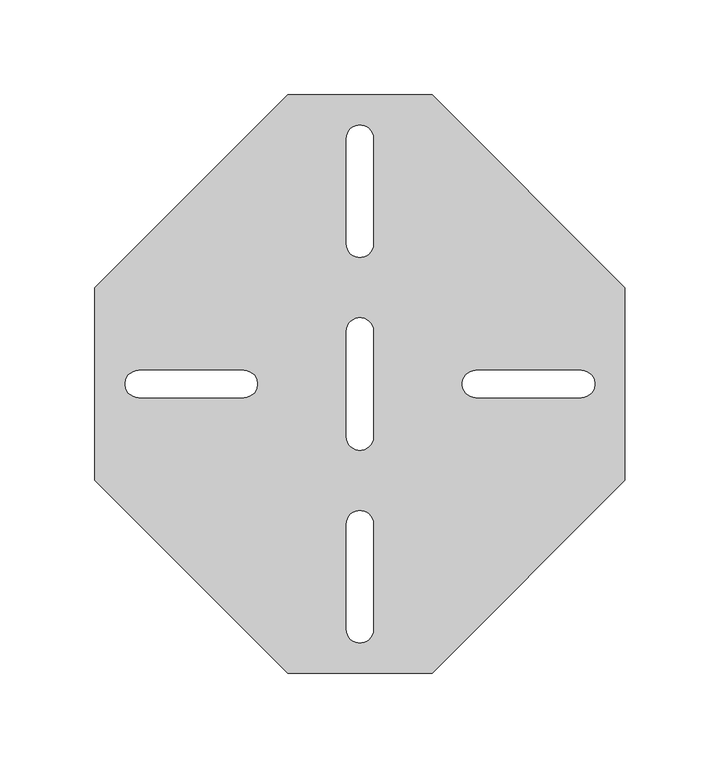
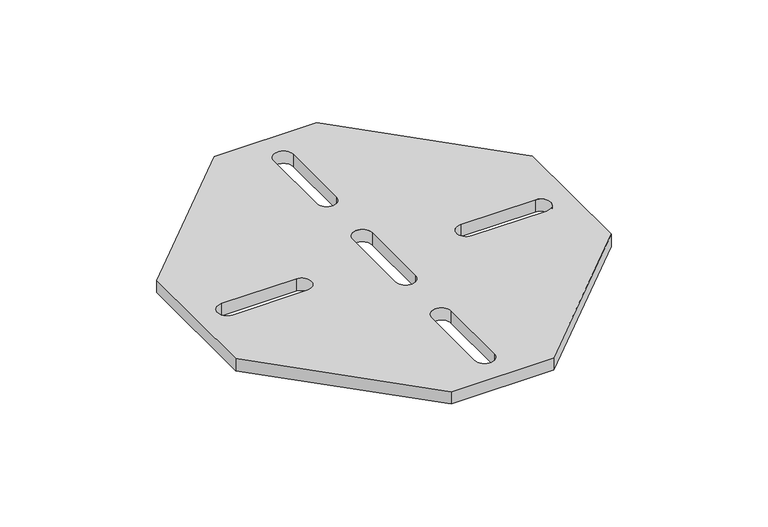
"""IFC4 building model written with IfcOpenShell, lengths in millimetres: proxy geometry, 14NSF-P33 : 14NSF-P33."""

from ifc_helpers import new_model, si_unit, point, frame_2d, origin, origin_with_axes, place, context, project, spatial, polyline, circle_curve, trimmed, segment, composite_curve, outline, extrude, source, transform, mapped, element, save


def generic_models_2657ff51(model_context):
    return source(origin(), model_context, "Body", "SweptSolid", [
        extrude(outline(polyline([(38.1, 152.4), (139.7, 50.8), (139.7, -50.8), (38.1, -152.4), (-38.1, -152.4), (-139.7, -50.8), (-139.7, 50.8), (-38.1, 152.4), (38.1, 152.4)]), holes=[composite_curve([segment(polyline([(-7.14375, 129.38125), (-7.14375, 73.81875)]), True, "CONTINUOUS"), segment(trimmed(circle_curve(frame_2d((0.0, 73.81875)), 7.14375), [point((-7.14375, 73.81875))], [point((7.14375, 73.81875))], True, "CARTESIAN"), True, "CONTINUOUS"), segment(polyline([(7.14375, 73.81875), (7.14375, 129.38125)]), True, "CONTINUOUS"), segment(trimmed(circle_curve(frame_2d((0.0, 129.38125)), 7.14375), [point((7.14375, 129.38125))], [point((-7.14375, 129.38125))], True, "CARTESIAN"), True, "CONTINUOUS")], self_intersect=False), composite_curve([segment(polyline([(-7.14375, 27.78125), (-7.14375, -27.78125)]), True, "CONTINUOUS"), segment(trimmed(circle_curve(frame_2d((0.0, -27.78125)), 7.14375), [point((-7.14375, -27.78125))], [point((7.14375, -27.78125))], True, "CARTESIAN"), True, "CONTINUOUS"), segment(polyline([(7.14375, -27.78125), (7.14375, 27.78125)]), True, "CONTINUOUS"), segment(trimmed(circle_curve(frame_2d((0.0, 27.78125)), 7.14375), [point((7.14375, 27.78125))], [point((-7.14375, 27.78125))], True, "CARTESIAN"), True, "CONTINUOUS")], self_intersect=False), composite_curve([segment(polyline([(-7.14375, -73.81875), (-7.14375, -129.38125)]), True, "CONTINUOUS"), segment(trimmed(circle_curve(frame_2d((0.0, -129.38125)), 7.14375), [point((-7.14375, -129.38125))], [point((7.14375, -129.38125))], True, "CARTESIAN"), True, "CONTINUOUS"), segment(polyline([(7.14375, -129.38125), (7.14375, -73.81875)]), True, "CONTINUOUS"), segment(trimmed(circle_curve(frame_2d((0.0, -73.81875)), 7.14375), [point((7.14375, -73.81875))], [point((-7.14375, -73.81875))], True, "CARTESIAN"), True, "CONTINUOUS")], self_intersect=False), composite_curve([segment(polyline([(-116.68125, -7.14375), (-61.11875, -7.14375)]), True, "CONTINUOUS"), segment(trimmed(circle_curve(frame_2d((-61.11875, 0.0)), 7.14375), [point((-61.11875, -7.14375))], [point((-61.11875, 7.14375))], True, "CARTESIAN"), True, "CONTINUOUS"), segment(polyline([(-61.11875, 7.14375), (-116.68125, 7.14375)]), True, "CONTINUOUS"), segment(trimmed(circle_curve(frame_2d((-116.68125, 0.0)), 7.14375), [point((-116.68125, 7.14375))], [point((-116.68125, -7.14375))], True, "CARTESIAN"), True, "CONTINUOUS")], self_intersect=False), composite_curve([segment(polyline([(61.11875, -7.14375), (116.68125, -7.14375)]), True, "CONTINUOUS"), segment(trimmed(circle_curve(frame_2d((116.68125, 0.0)), 7.14375), [point((116.68125, -7.14375))], [point((116.68125, 7.14375))], True, "CARTESIAN"), True, "CONTINUOUS"), segment(polyline([(116.68125, 7.14375), (61.11875, 7.14375)]), True, "CONTINUOUS"), segment(trimmed(circle_curve(frame_2d((61.11875, 0.0)), 7.14375), [point((61.11875, 7.14375))], [point((61.11875, -7.14375))], True, "CARTESIAN"), True, "CONTINUOUS")], self_intersect=False)]), origin_with_axes(), (0.0, 0.0, 1.0), 9.525),
    ])


if __name__ == "__main__":
    model = new_model("IFC4")
    model_context = context("Model", 3, world=origin())
    ifc_project = project(units=[si_unit("LENGTHUNIT", "METRE", prefix="MILLI")], contexts=[model_context])
    site = spatial("IfcSite", under=ifc_project)
    building = spatial("IfcBuilding", under=site)
    placement = place(None, origin())
    generic_models_shape = generic_models_2657ff51(model_context)
    element("IfcBuildingElementProxy", 1, Name="14NSF-P33 : 14NSF-P33", ObjectType="14NSF-P33 : 14NSF-P33", at=placement, inside=building, context=model_context, shape_type="MappedRepresentation", body=[
        mapped(generic_models_shape, transform((0.0, 0.0, 0.0), x_axis=(1.0, 0.0, 0.0), y_axis=(0.0, 1.0, 0.0), z_axis=(0.0, 0.0, 1.0))),
    ])
    save(model, "model.ifc")
